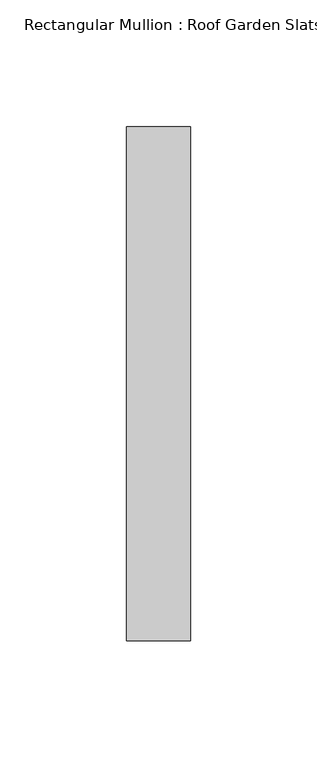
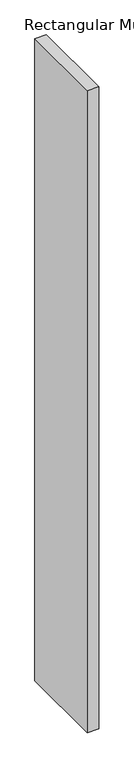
"""IFC4 building model written with IfcOpenShell, lengths in millimetres: member geometry, Rectangular Mullion : Roof Garden Slats."""

from ifc_helpers import new_model, si_unit, frame, origin, place, context, project, spatial, polyline, outline, extrude, source, transform, mapped, element, save


def rectangular_mullion_roof_garden_slats_c4fc53a3(model_context):
    return source(origin(), model_context, "Body", "SweptSolid", [
        extrude(outline(polyline([(12.7, 139.7), (12.7, -63.5), (-12.7, -63.5), (-12.7, 139.7), (12.7, 139.7)])), frame((0.0, 0.0, -1519.7509294), z_axis=(0.0, 0.0, 1.0), x_axis=(1.0, 0.0, 0.0)), (0.0, 0.0, 1.0), 1519.7509294),
    ])


if __name__ == "__main__":
    model = new_model("IFC4")
    model_context = context("Model", 3, world=origin())
    ifc_project = project(units=[si_unit("LENGTHUNIT", "METRE", prefix="MILLI")], contexts=[model_context])
    site = spatial("IfcSite", under=ifc_project)
    building = spatial("IfcBuilding", under=site)
    placement = place(None, origin())
    rectangular_mullion_roof_garden_slats_shape = rectangular_mullion_roof_garden_slats_c4fc53a3(model_context)
    element("IfcMember", 1, ObjectType="Rectangular Mullion : Roof Garden Slats", at=placement, inside=building, context=model_context, shape_type="MappedRepresentation", body=[
        mapped(rectangular_mullion_roof_garden_slats_shape, transform((0.0, 0.0, 0.0), x_axis=(1.0, 0.0, 0.0), y_axis=(0.0, 1.0, 0.0), z_axis=(0.0, 0.0, 1.0))),
    ])
    save(model, "model.ifc")
